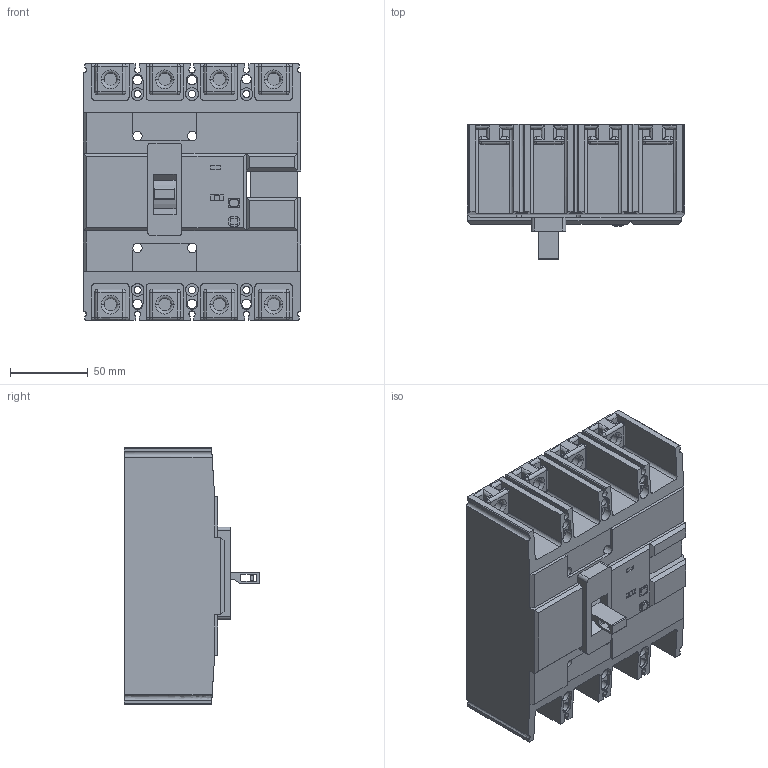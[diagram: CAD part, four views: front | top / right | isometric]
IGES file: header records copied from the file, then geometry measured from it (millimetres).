
Start section:  PTC IGES file: 10-metasol-elcb-250af-4p.igs
Global section: file name: 10-metasol-elcb-250af-4p.igs; native system: Pro/ENGINEER by Parametric Technology Corporation; preprocessor: 2010280; author: mgkimb; organization: Unknown; date: 20131029.143202; units: millimetre
Bounding box: 140 x 86.85 x 165 mm (x, y, z)
Surface area: 137735.9 mm2 (no closed solid volume)
Topology: 0 solids, 0 shells, 642 faces, 3180 edges, 3179 vertices
Faces by surface type: revolution 367, bspline 275
